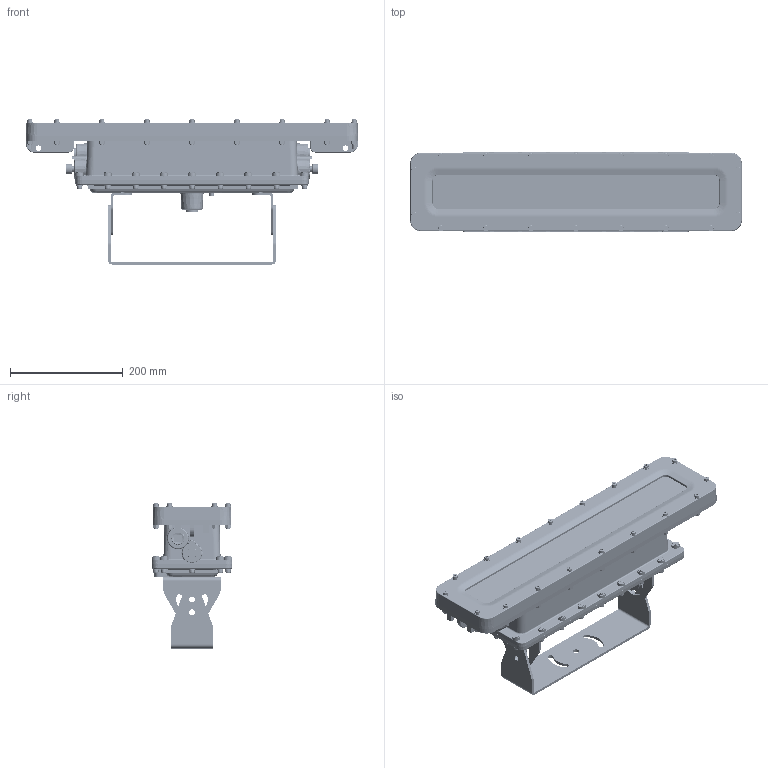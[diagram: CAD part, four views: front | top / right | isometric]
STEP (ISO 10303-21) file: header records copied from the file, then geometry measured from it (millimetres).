
FILE_DESCRIPTION (( 'STEP AP203' ), '1' );
FILE_NAME ('EPL-LR-24-60W-LED-TRN-1224-125B.STEP', '2026-01-26T19:52:56', ( '' ), ( '' ), 'SwSTEP 2.0', 'SolidWorks 2020', '' );
FILE_SCHEMA (( 'CONFIG_CONTROL_DESIGN' ));
Products named in the file (4): TRN-2.STEP; EPL-LR-24-60W-LED-TRN-1224-125B; HAL-LC-24-LED.STEP; TRN-1.STEP
Assembly tree (4 placements, depth 2):
  EPL-LR-24-60W-LED-TRN-1224-125B
    HAL-LC-24-LED.STEP
    TRN-1.STEP  x2
    TRN-2.STEP
Bounding box: 590 x 143 x 257.79 mm (x, y, z)
Volume: 8360752.6 mm3; surface area: 1393221.7 mm2
Topology: 236 solids, 238 shells, 4168 faces, 9790 edges, 6287 vertices
Faces by surface type: plane 1984, cylinder 1553, torus 273, cone 246, bspline 99, sphere 13
Entity records: 151794 total; most frequent: CARTESIAN_POINT 55050, DIRECTION 20242, ORIENTED_EDGE 19348, EDGE_CURVE 9674, AXIS2_PLACEMENT_3D 7510, VERTEX_POINT 6231, LINE 5222, VECTOR 5222
